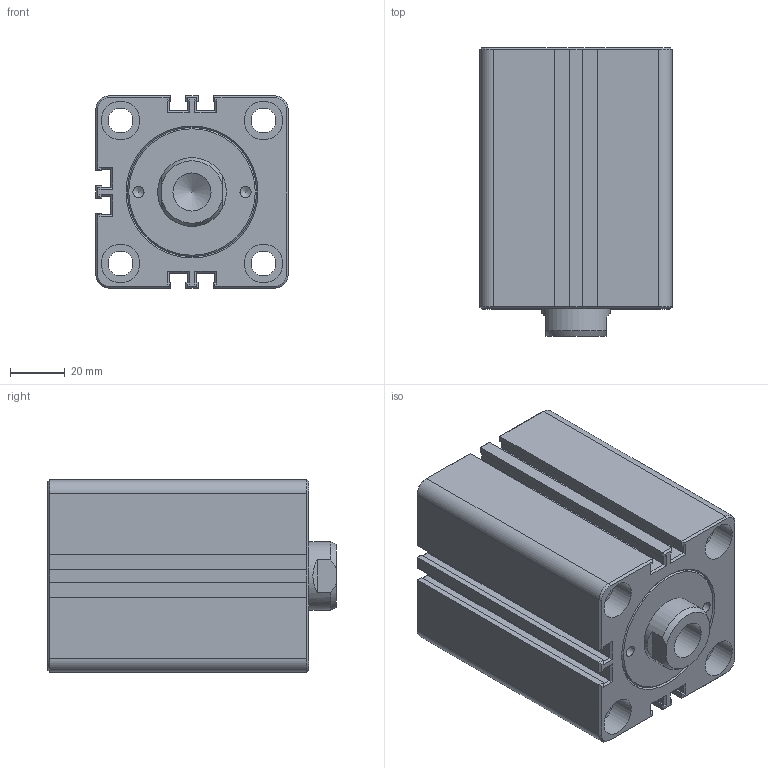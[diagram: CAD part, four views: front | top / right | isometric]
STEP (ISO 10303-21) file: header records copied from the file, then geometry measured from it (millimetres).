
FILE_DESCRIPTION(/* description */ ('Unknown'),/* implementation_level */ '2;1');
FILE_NAME(/* name */ 'HTM70-SD40X40N',/* time_stamp */ '2022-08-31T02:47:03+08:00',/* author */ ('Unknown'),/* organization */ ('Unknown'),/* preprocessor_version */ 'ST-DEVELOPER v16.7',/* originating_system */ 'DEX',/* authorisation */ $);
FILE_SCHEMA (('AUTOMOTIVE_DESIGN {1 0 10303 214 3 1 1}'));
Length unit declared in the file: millimetre
Products named in the file (1): HTM70-SD40X40N
Bounding box: 70 x 105 x 70 mm (x, y, z)
Volume: 411514 mm3; surface area: 56843.3 mm2
Topology: 1 solids, 1 shells, 235 faces, 540 edges, 321 vertices
Faces by surface type: plane 176, cone 24, cylinder 23, bspline 12
Full cylindrical faces by diameter (mm): 4.1 x2, 6 x1, 9 x4, 12.301 x2, 13.835 x1, 14 x8, 25 x1
Entity records: 7999 total; most frequent: CARTESIAN_POINT 1283, ORIENTED_EDGE 1002, DIRECTION 992, EDGE_CURVE 501, LINE 390, VECTOR 390, VERTEX_POINT 312, AXIS2_PLACEMENT_3D 301
